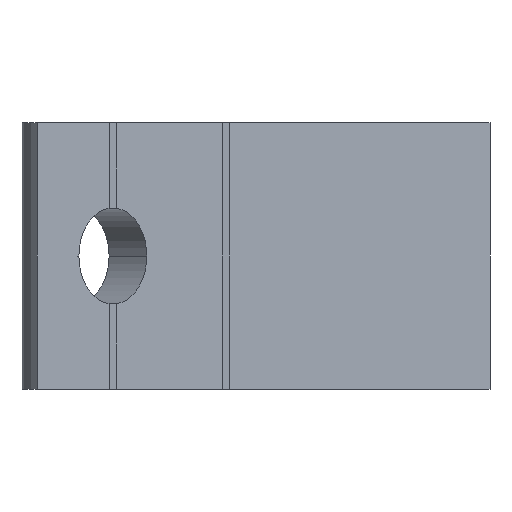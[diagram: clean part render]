
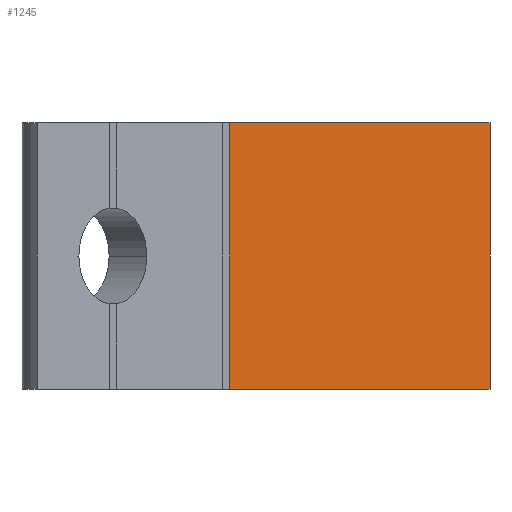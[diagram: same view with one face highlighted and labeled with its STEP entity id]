
A CAD part, left-side view. The second image highlights one B-rep face of the part: STEP entity #1245.
In plain terms, the highlighted planar face has unit normal (-0.707, -0.707, 0).
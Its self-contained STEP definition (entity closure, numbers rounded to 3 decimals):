
#74 = VECTOR ( 'NONE', #664, 1000. ) ;
#104 = VECTOR ( 'NONE', #588, 1000. ) ;
#114 = ORIENTED_EDGE ( 'NONE', *, *, #1663, .T. ) ;
#205 = CARTESIAN_POINT ( 'NONE',  ( 0., 0., 5. ) ) ;
#320 = VECTOR ( 'NONE', #1502, 1000. ) ;
#400 = VERTEX_POINT ( 'NONE', #1368 ) ;
#404 = CARTESIAN_POINT ( 'NONE',  ( 0., 0., 30. ) ) ;
#432 = LINE ( 'NONE', #950, #320 ) ;
#439 = FACE_OUTER_BOUND ( 'NONE', #1501, .T. ) ;
#445 = DIRECTION ( 'NONE',  ( -0.707, -0.707, 0. ) ) ;
#509 = CARTESIAN_POINT ( 'NONE',  ( -24.395, 24.395, 0. ) ) ;
#588 = DIRECTION ( 'NONE',  ( 0.707, -0.707, 0. ) ) ;
#605 = ORIENTED_EDGE ( 'NONE', *, *, #1420, .T. ) ;
#664 = DIRECTION ( 'NONE',  ( 0., 0., -1. ) ) ;
#667 = DIRECTION ( 'NONE',  ( -0.707, 0.707, 0. ) ) ;
#728 = EDGE_CURVE ( 'NONE', #1409, #400, #1691, .T. ) ;
#767 = VECTOR ( 'NONE', #667, 1000. ) ;
#852 = EDGE_CURVE ( 'NONE', #1675, #1284, #432, .T. ) ;
#935 = LINE ( 'NONE', #404, #767 ) ;
#950 = CARTESIAN_POINT ( 'NONE',  ( 0., 0., 0. ) ) ;
#971 = PLANE ( 'NONE',  #1612 ) ;
#1036 = CARTESIAN_POINT ( 'NONE',  ( -24.395, 24.395, 30. ) ) ;
#1213 = ORIENTED_EDGE ( 'NONE', *, *, #852, .F. ) ;
#1245 = ADVANCED_FACE ( 'NONE', ( #439 ), #971, .T. ) ;
#1256 = CARTESIAN_POINT ( 'NONE',  ( 0., 0., 30. ) ) ;
#1284 = VERTEX_POINT ( 'NONE', #1544 ) ;
#1348 = ORIENTED_EDGE ( 'NONE', *, *, #728, .T. ) ;
#1368 = CARTESIAN_POINT ( 'NONE',  ( -24.395, 24.395, 5. ) ) ;
#1378 = DIRECTION ( 'NONE',  ( 0.707, -0.707, 0. ) ) ;
#1409 = VERTEX_POINT ( 'NONE', #1036 ) ;
#1420 = EDGE_CURVE ( 'NONE', #1675, #1409, #935, .T. ) ;
#1501 = EDGE_LOOP ( 'NONE', ( #1348, #114, #1213, #605 ) ) ;
#1502 = DIRECTION ( 'NONE',  ( 0., 0., -1. ) ) ;
#1507 = CARTESIAN_POINT ( 'NONE',  ( 0., 0., 0. ) ) ;
#1544 = CARTESIAN_POINT ( 'NONE',  ( 0., 0., 5. ) ) ;
#1557 = LINE ( 'NONE', #205, #104 ) ;
#1612 = AXIS2_PLACEMENT_3D ( 'NONE', #1507, #445, #1378 ) ;
#1663 = EDGE_CURVE ( 'NONE', #400, #1284, #1557, .T. ) ;
#1675 = VERTEX_POINT ( 'NONE', #1256 ) ;
#1691 = LINE ( 'NONE', #509, #74 ) ;
